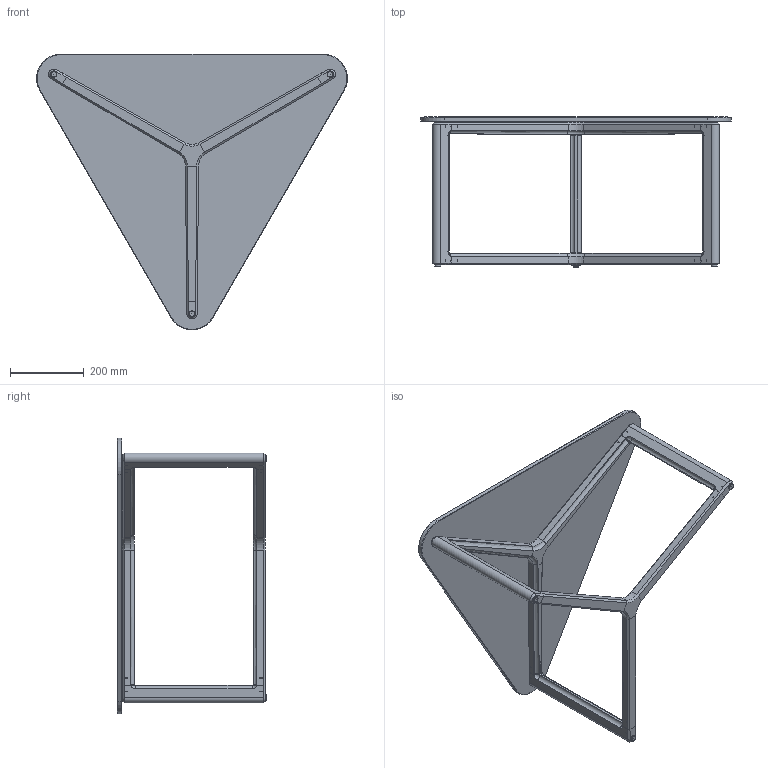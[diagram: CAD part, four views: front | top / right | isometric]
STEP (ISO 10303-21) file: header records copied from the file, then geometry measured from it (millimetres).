
FILE_DESCRIPTION(/* description */ ('SPANNER, COFFEE TABLE, 36''''X 16.5''''H'),/* implementation_level */ '2;1');
FILE_NAME(/* name */ '1152-TRIANGLE-GL.stp',/* time_stamp */ '2024-02-20T14:20:50-05:00',/* author */ ('aunderhill'),/* organization */ (''),/* preprocessor_version */ 'ST-DEVELOPER v19.2',/* originating_system */ 'Autodesk Inventor 2023',/* authorisation */ '');
FILE_SCHEMA (('AUTOMOTIVE_DESIGN { 1 0 10303 214 3 1 1 }'));
Length unit declared in the file: inch
Products named in the file (9): 1152-TRIANGLE-GL; 1152-001; 1150-002; 1152-003; 1152-004; 97506; FA058; GL01-037; HD01-179
Assembly tree (43 placements, depth 3):
  1152-TRIANGLE-GL
    1152-001
      1150-002  x2
      1152-003  x6
      1152-004  x3
      97506  x3
      FA058  x24
    GL01-037
    HD01-179  x3
Bounding box: 844.8 x 406.4 x 749.3 mm (x, y, z)
Volume: 8093121.4 mm3; surface area: 1292737.9 mm2
Topology: 42 solids, 42 shells, 474 faces, 903 edges, 564 vertices
Faces by surface type: plane 234, cylinder 111, cone 69, bspline 51, torus 9
Full cylindrical faces by diameter (mm): 1.575 x3, 9.728 x72, 15.875 x3
Entity records: 4145 total; most frequent: CARTESIAN_POINT 971, DIRECTION 644, ORIENTED_EDGE 494, AXIS2_PLACEMENT_3D 256, EDGE_CURVE 247, VERTEX_POINT 155, EDGE_LOOP 136, LINE 132
